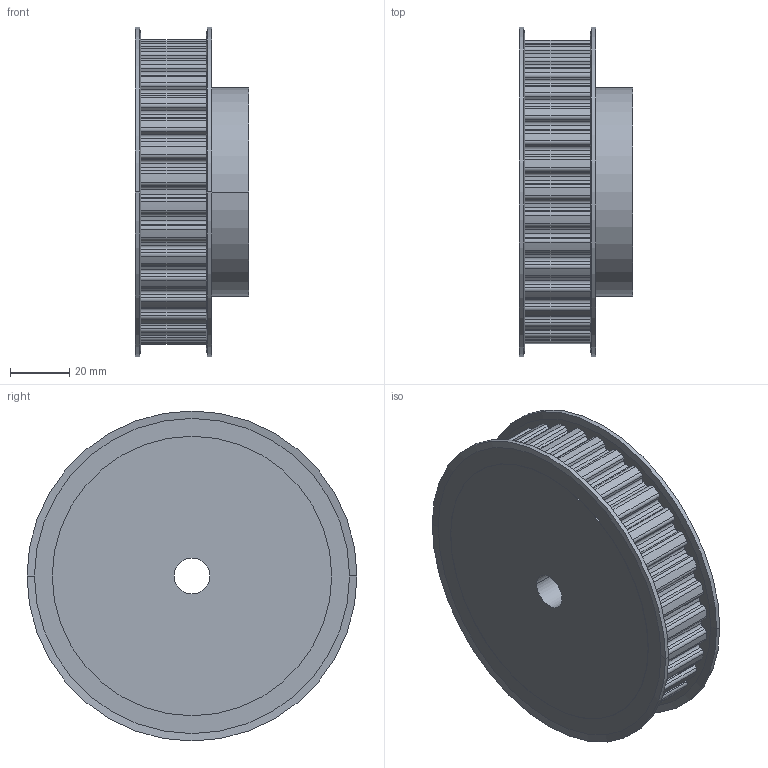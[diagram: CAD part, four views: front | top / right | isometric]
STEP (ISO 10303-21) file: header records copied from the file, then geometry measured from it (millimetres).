
FILE_DESCRIPTION( ( '' ), '1' );
FILE_NAME( 'C:/Users/Stangenbergd/Documents/CAD_Step/1/18223400.stp', '2021-10-19T10:38:03', ( '' ), ( '' ), ' ', ' ', ' ' );
FILE_SCHEMA( ( 'CONFIG_CONTROL_DESIGN' ) );
Length unit declared in the file: millimetre
Products named in the file (1): 1
Bounding box: 38.2 x 111 x 111 mm (x, y, z)
Volume: 249006.3 mm3; surface area: 37296.7 mm2
Topology: 1 solids, 1 shells, 299 faces, 868 edges, 576 vertices
Faces by surface type: cylinder 182, plane 109, cone 8
Entity records: 10058 total; most frequent: DIRECTION 1840, CARTESIAN_POINT 1744, ORIENTED_EDGE 1736, EDGE_CURVE 868, AXIS2_PLACEMENT_3D 672, VERTEX_POINT 576, LINE 496, VECTOR 496
